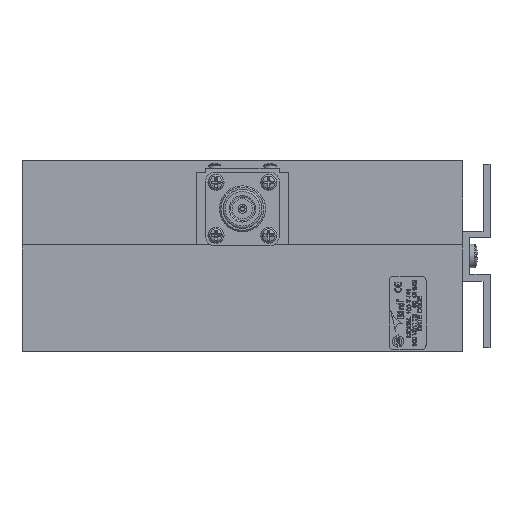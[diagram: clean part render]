
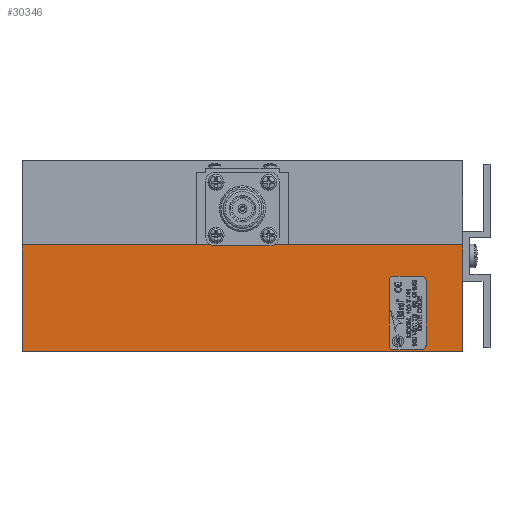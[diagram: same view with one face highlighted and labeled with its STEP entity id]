
A CAD part, front view. The second image highlights one B-rep face of the part: STEP entity #30346.
In plain terms, the highlighted planar face has unit normal (0, -1, 0).
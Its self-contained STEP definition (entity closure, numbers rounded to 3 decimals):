
#956=CIRCLE('',#31602,3.175);
#957=CIRCLE('',#31603,3.175);
#958=CIRCLE('',#31604,1.575);
#959=CIRCLE('',#31605,1.575);
#960=CIRCLE('',#31606,1.575);
#961=CIRCLE('',#31607,1.575);
#2251=ORIENTED_EDGE('',*,*,#8346,.F.);
#2252=ORIENTED_EDGE('',*,*,#8347,.T.);
#2253=ORIENTED_EDGE('',*,*,#8348,.T.);
#2254=ORIENTED_EDGE('',*,*,#8349,.T.);
#2255=ORIENTED_EDGE('',*,*,#8350,.F.);
#2256=ORIENTED_EDGE('',*,*,#8083,.F.);
#2257=ORIENTED_EDGE('',*,*,#8345,.T.);
#2258=ORIENTED_EDGE('',*,*,#8351,.T.);
#2259=ORIENTED_EDGE('',*,*,#8352,.F.);
#2260=ORIENTED_EDGE('',*,*,#8353,.T.);
#2261=ORIENTED_EDGE('',*,*,#8354,.F.);
#2262=ORIENTED_EDGE('',*,*,#8355,.T.);
#2263=ORIENTED_EDGE('',*,*,#8356,.F.);
#2264=ORIENTED_EDGE('',*,*,#8357,.T.);
#2265=ORIENTED_EDGE('',*,*,#8358,.F.);
#2266=ORIENTED_EDGE('',*,*,#8359,.T.);
#8083=EDGE_CURVE('',#11261,#11262,#13513,.T.);
#8345=EDGE_CURVE('',#11261,#11433,#13773,.T.);
#8346=EDGE_CURVE('',#11434,#11435,#13774,.T.);
#8347=EDGE_CURVE('',#11434,#11436,#956,.T.);
#8348=EDGE_CURVE('',#11436,#11437,#13775,.T.);
#8349=EDGE_CURVE('',#11437,#11438,#957,.T.);
#8350=EDGE_CURVE('',#11262,#11438,#13776,.T.);
#8351=EDGE_CURVE('',#11433,#11435,#13777,.T.);
#8352=EDGE_CURVE('',#11439,#11440,#13778,.T.);
#8353=EDGE_CURVE('',#11439,#11441,#958,.T.);
#8354=EDGE_CURVE('',#11442,#11441,#13779,.T.);
#8355=EDGE_CURVE('',#11442,#11443,#959,.T.);
#8356=EDGE_CURVE('',#11444,#11443,#13780,.T.);
#8357=EDGE_CURVE('',#11444,#11445,#960,.T.);
#8358=EDGE_CURVE('',#11446,#11445,#13781,.T.);
#8359=EDGE_CURVE('',#11446,#11440,#961,.T.);
#11261=VERTEX_POINT('',#38933);
#11262=VERTEX_POINT('',#38935);
#11433=VERTEX_POINT('',#39453);
#11434=VERTEX_POINT('',#39457);
#11435=VERTEX_POINT('',#39458);
#11436=VERTEX_POINT('',#39460);
#11437=VERTEX_POINT('',#39462);
#11438=VERTEX_POINT('',#39464);
#11439=VERTEX_POINT('',#39468);
#11440=VERTEX_POINT('',#39469);
#11441=VERTEX_POINT('',#39471);
#11442=VERTEX_POINT('',#39473);
#11443=VERTEX_POINT('',#39475);
#11444=VERTEX_POINT('',#39477);
#11445=VERTEX_POINT('',#39479);
#11446=VERTEX_POINT('',#39481);
#13513=LINE('',#38934,#15693);
#13773=LINE('',#39454,#15953);
#13774=LINE('',#39456,#15954);
#13775=LINE('',#39461,#15955);
#13776=LINE('',#39465,#15956);
#13777=LINE('',#39466,#15957);
#13778=LINE('',#39467,#15958);
#13779=LINE('',#39472,#15959);
#13780=LINE('',#39476,#15960);
#13781=LINE('',#39480,#15961);
#15693=VECTOR('',#33433,1000.);
#15953=VECTOR('',#33869,1000.);
#15954=VECTOR('',#33872,1000.);
#15955=VECTOR('',#33875,1000.);
#15956=VECTOR('',#33878,1000.);
#15957=VECTOR('',#33879,1000.);
#15958=VECTOR('',#33880,1000.);
#15959=VECTOR('',#33883,1000.);
#15960=VECTOR('',#33886,1000.);
#15961=VECTOR('',#33889,1000.);
#17815=EDGE_LOOP('',(#2251,#2252,#2253,#2254,#2255,#2256,#2257,#2258));
#17816=EDGE_LOOP('',(#2259,#2260,#2261,#2262,#2263,#2264,#2265,#2266));
#19245=FACE_BOUND('',#17815,.T.);
#19246=FACE_BOUND('',#17816,.T.);
#20674=PLANE('',#31601);
#30346=ADVANCED_FACE('',(#19245,#19246),#20674,.F.);
#31601=AXIS2_PLACEMENT_3D('',#39455,#33870,#33871);
#31602=AXIS2_PLACEMENT_3D('',#39459,#33873,#33874);
#31603=AXIS2_PLACEMENT_3D('',#39463,#33876,#33877);
#31604=AXIS2_PLACEMENT_3D('',#39470,#33881,#33882);
#31605=AXIS2_PLACEMENT_3D('',#39474,#33884,#33885);
#31606=AXIS2_PLACEMENT_3D('',#39478,#33887,#33888);
#31607=AXIS2_PLACEMENT_3D('',#39482,#33890,#33891);
#33433=DIRECTION('',(0.,0.,1.));
#33869=DIRECTION('',(1.,0.,0.));
#33870=DIRECTION('',(0.,1.,0.));
#33871=DIRECTION('',(0.,0.,1.));
#33872=DIRECTION('',(1.,0.,0.));
#33873=DIRECTION('',(0.,1.,0.));
#33874=DIRECTION('',(0.,0.,1.));
#33875=DIRECTION('',(-1.,0.,0.));
#33876=DIRECTION('',(0.,1.,0.));
#33877=DIRECTION('',(0.,0.,1.));
#33878=DIRECTION('',(1.,0.,0.));
#33879=DIRECTION('',(0.,0.,1.));
#33880=DIRECTION('',(-1.,0.,0.));
#33881=DIRECTION('',(0.,1.,0.));
#33882=DIRECTION('',(0.,0.,1.));
#33883=DIRECTION('',(0.,0.,1.));
#33884=DIRECTION('',(0.,1.,0.));
#33885=DIRECTION('',(0.,0.,1.));
#33886=DIRECTION('',(1.,0.,0.));
#33887=DIRECTION('',(0.,1.,0.));
#33888=DIRECTION('',(0.,0.,1.));
#33889=DIRECTION('',(0.,0.,-1.));
#33890=DIRECTION('',(0.,1.,0.));
#33891=DIRECTION('',(0.,0.,1.));
#38933=CARTESIAN_POINT('',(-152.4,-0.025,-36.83));
#38934=CARTESIAN_POINT('',(-152.4,-0.025,-36.83));
#38935=CARTESIAN_POINT('',(-152.4,-0.025,0.));
#39453=CARTESIAN_POINT('',(0.,-0.025,-36.83));
#39454=CARTESIAN_POINT('',(-152.4,-0.025,-36.83));
#39455=CARTESIAN_POINT('',(-152.4,-0.025,-36.83));
#39456=CARTESIAN_POINT('',(-152.4,-0.025,0.));
#39457=CARTESIAN_POINT('',(-65.546,-0.025,0.));
#39458=CARTESIAN_POINT('',(0.,-0.025,0.));
#39459=CARTESIAN_POINT('',(-66.663,-0.025,2.972));
#39460=CARTESIAN_POINT('',(-66.663,-0.025,-0.203));
#39461=CARTESIAN_POINT('',(-152.4,-0.025,-0.203));
#39462=CARTESIAN_POINT('',(-85.713,-0.025,-0.203));
#39463=CARTESIAN_POINT('',(-85.713,-0.025,2.972));
#39464=CARTESIAN_POINT('',(-86.83,-0.025,0.));
#39465=CARTESIAN_POINT('',(-152.4,-0.025,0.));
#39466=CARTESIAN_POINT('',(0.,-0.025,-36.83));
#39467=CARTESIAN_POINT('',(-12.7,-0.025,-10.795));
#39468=CARTESIAN_POINT('',(-14.275,-0.025,-10.795));
#39469=CARTESIAN_POINT('',(-23.825,-0.025,-10.795));
#39470=CARTESIAN_POINT('',(-14.275,-0.025,-12.37));
#39471=CARTESIAN_POINT('',(-12.7,-0.025,-12.37));
#39472=CARTESIAN_POINT('',(-12.7,-0.025,-36.195));
#39473=CARTESIAN_POINT('',(-12.7,-0.025,-34.62));
#39474=CARTESIAN_POINT('',(-14.275,-0.025,-34.62));
#39475=CARTESIAN_POINT('',(-14.275,-0.025,-36.195));
#39476=CARTESIAN_POINT('',(-25.4,-0.025,-36.195));
#39477=CARTESIAN_POINT('',(-23.825,-0.025,-36.195));
#39478=CARTESIAN_POINT('',(-23.825,-0.025,-34.62));
#39479=CARTESIAN_POINT('',(-25.4,-0.025,-34.62));
#39480=CARTESIAN_POINT('',(-25.4,-0.025,-10.795));
#39481=CARTESIAN_POINT('',(-25.4,-0.025,-12.37));
#39482=CARTESIAN_POINT('',(-23.825,-0.025,-12.37));
